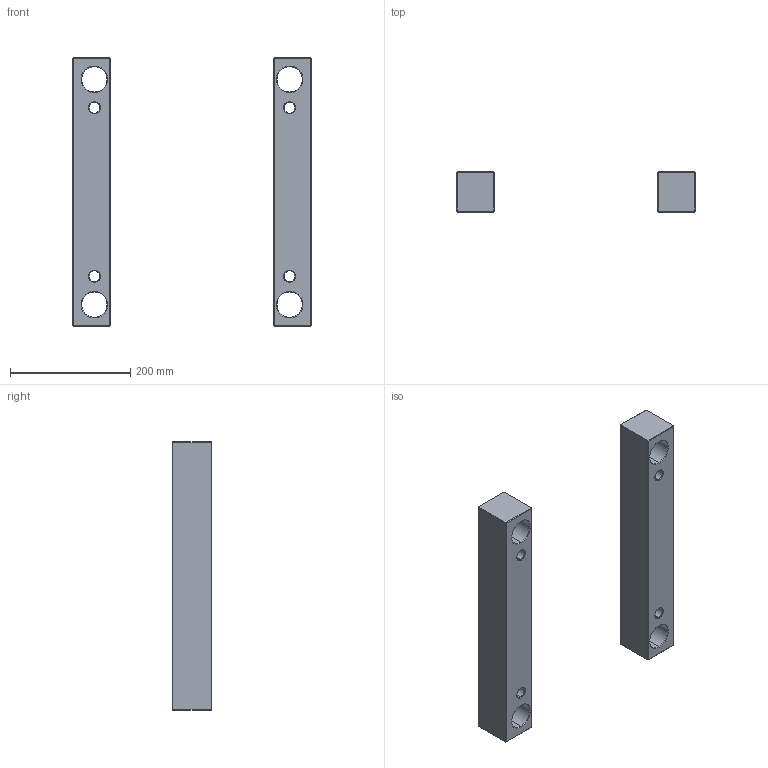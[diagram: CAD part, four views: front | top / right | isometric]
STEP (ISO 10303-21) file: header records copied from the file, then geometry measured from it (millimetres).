
FILE_DESCRIPTION (( 'STEP AP214' ), '1' );
FILE_NAME ('ESP-EU-396X446x66.STEP', '2020-04-16T11:30:52', ( 'August' ), ( '' ), 'SwSTEP 2.0', 'SolidWorks 2018', '' );
FILE_SCHEMA (( 'AUTOMOTIVE_DESIGN' ));
Length unit declared in the file: millimetre
Products named in the file (1): ESP-EU-396X446x66
Bounding box: 396 x 66 x 446 mm (x, y, z)
Volume: 3214071.3 mm3; surface area: 277805.1 mm2
Topology: 2 solids, 2 shells, 100 faces, 208 edges, 112 vertices
Faces by surface type: plane 52, cone 32, cylinder 16
Entity records: 2631 total; most frequent: DIRECTION 474, CARTESIAN_POINT 421, ORIENTED_EDGE 416, EDGE_CURVE 208, AXIS2_PLACEMENT_3D 165, LINE 144, VECTOR 144, EDGE_LOOP 116
